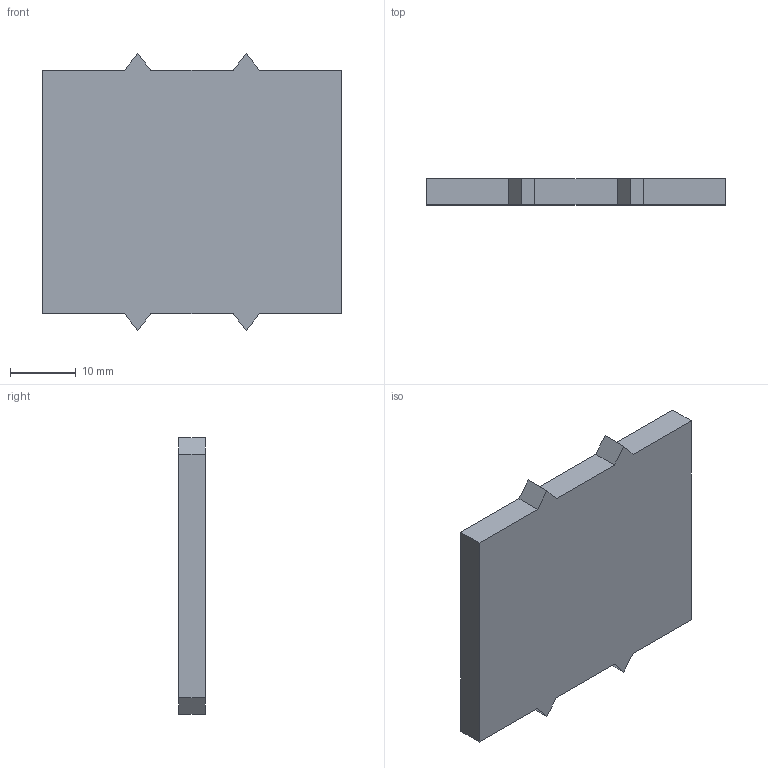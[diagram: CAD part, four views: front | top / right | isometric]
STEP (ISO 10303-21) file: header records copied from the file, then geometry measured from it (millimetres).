
FILE_DESCRIPTION(('FreeCAD Model'),'2;1');
FILE_NAME('Open CASCADE Shape Model','2024-06-26T11:40:23',('FreeCAD'),( 'FreeCAD'),'Open CASCADE STEP processor 7.6','FreeCAD','Unknown');
FILE_SCHEMA(('AUTOMOTIVE_DESIGN { 1 0 10303 214 1 1 1 1 }'));
Length unit declared in the file: millimetre
Products named in the file (1): Open CASCADE STEP translator 7.6 2
Bounding box: 45.5 x 4 x 42 mm (x, y, z)
Volume: 6814 mm3; surface area: 4105.4 mm2
Topology: 1 solids, 1 shells, 18 faces, 48 edges, 32 vertices
Faces by surface type: plane 18
Entity records: 562 total; most frequent: CARTESIAN_POINT 99, ORIENTED_EDGE 96, DIRECTION 86, EDGE_CURVE 48, LINE 48, VECTOR 48, VERTEX_POINT 32, AXIS2_PLACEMENT_3D 19
